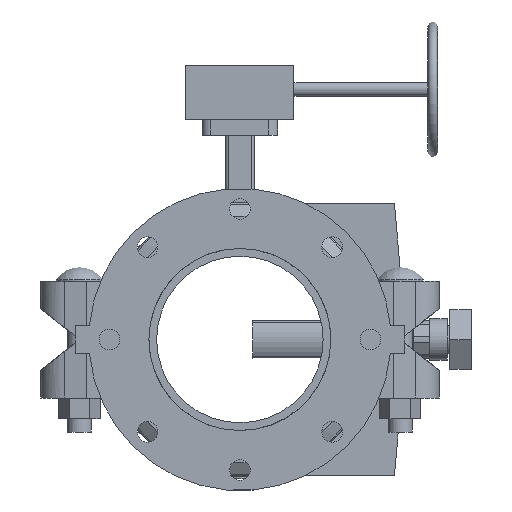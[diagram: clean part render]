
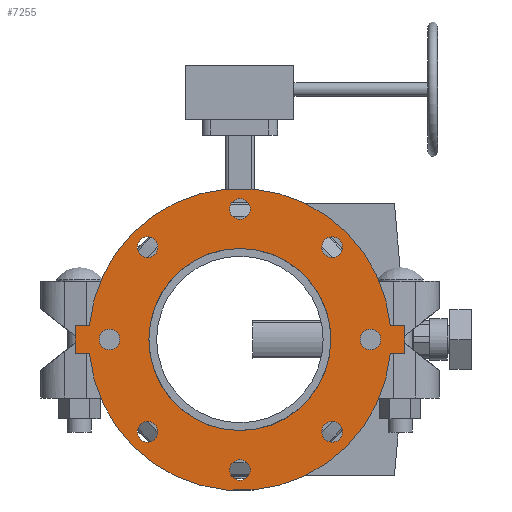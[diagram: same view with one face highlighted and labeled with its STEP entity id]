
A CAD part, front view. The second image highlights one B-rep face of the part: STEP entity #7255.
In plain terms, the highlighted planar face has unit normal (0, -1, 0) as drawn and (0, 0, -1) by its records, which use the part's own axes.
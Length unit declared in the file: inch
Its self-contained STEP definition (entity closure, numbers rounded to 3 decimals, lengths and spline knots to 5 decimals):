
#188=FACE_BOUND('',#922,.T.);
#189=FACE_BOUND('',#923,.T.);
#190=FACE_BOUND('',#924,.T.);
#191=FACE_BOUND('',#925,.T.);
#192=FACE_BOUND('',#926,.T.);
#193=FACE_BOUND('',#927,.T.);
#194=FACE_BOUND('',#928,.T.);
#195=FACE_BOUND('',#929,.T.);
#196=FACE_BOUND('',#930,.T.);
#278=PLANE('',#7868);
#524=FACE_OUTER_BOUND('',#921,.T.);
#921=EDGE_LOOP('',(#4666,#4667,#4668,#4669,#4670,#4671,#4672,#4673));
#922=EDGE_LOOP('',(#4674));
#923=EDGE_LOOP('',(#4675));
#924=EDGE_LOOP('',(#4676));
#925=EDGE_LOOP('',(#4677));
#926=EDGE_LOOP('',(#4678));
#927=EDGE_LOOP('',(#4679));
#928=EDGE_LOOP('',(#4680));
#929=EDGE_LOOP('',(#4681));
#930=EDGE_LOOP('',(#4682,#4683));
#1408=LINE('',#10997,#1949);
#1409=LINE('',#10999,#1950);
#1410=LINE('',#11001,#1951);
#1411=LINE('',#11005,#1952);
#1412=LINE('',#11007,#1953);
#1413=LINE('',#11008,#1954);
#1949=VECTOR('',#8759,0.3937);
#1950=VECTOR('',#8760,0.3937);
#1951=VECTOR('',#8761,0.3937);
#1952=VECTOR('',#8764,0.3937);
#1953=VECTOR('',#8765,0.3937);
#1954=VECTOR('',#8766,0.3937);
#2483=CIRCLE('',#7846,0.375);
#2485=CIRCLE('',#7849,0.375);
#2487=CIRCLE('',#7852,0.375);
#2489=CIRCLE('',#7855,0.375);
#2491=CIRCLE('',#7858,0.375);
#2493=CIRCLE('',#7861,0.375);
#2495=CIRCLE('',#7864,0.375);
#2497=CIRCLE('',#7867,0.375);
#2498=CIRCLE('',#7869,5.5);
#2499=CIRCLE('',#7870,5.5);
#2500=CIRCLE('',#7871,3.3125);
#2501=CIRCLE('',#7872,3.3125);
#2896=VERTEX_POINT('',#10947);
#2898=VERTEX_POINT('',#10953);
#2900=VERTEX_POINT('',#10959);
#2902=VERTEX_POINT('',#10965);
#2904=VERTEX_POINT('',#10971);
#2906=VERTEX_POINT('',#10977);
#2908=VERTEX_POINT('',#10983);
#2910=VERTEX_POINT('',#10989);
#2911=VERTEX_POINT('',#10993);
#2912=VERTEX_POINT('',#10994);
#2913=VERTEX_POINT('',#10996);
#2914=VERTEX_POINT('',#10998);
#2915=VERTEX_POINT('',#11000);
#2916=VERTEX_POINT('',#11002);
#2917=VERTEX_POINT('',#11004);
#2918=VERTEX_POINT('',#11006);
#2919=VERTEX_POINT('',#11009);
#2920=VERTEX_POINT('',#11010);
#3598=EDGE_CURVE('',#2896,#2896,#2483,.T.);
#3601=EDGE_CURVE('',#2898,#2898,#2485,.T.);
#3604=EDGE_CURVE('',#2900,#2900,#2487,.T.);
#3607=EDGE_CURVE('',#2902,#2902,#2489,.T.);
#3610=EDGE_CURVE('',#2904,#2904,#2491,.T.);
#3613=EDGE_CURVE('',#2906,#2906,#2493,.T.);
#3616=EDGE_CURVE('',#2908,#2908,#2495,.T.);
#3619=EDGE_CURVE('',#2910,#2910,#2497,.T.);
#3620=EDGE_CURVE('',#2911,#2912,#2498,.T.);
#3621=EDGE_CURVE('',#2912,#2913,#1408,.T.);
#3622=EDGE_CURVE('',#2913,#2914,#1409,.T.);
#3623=EDGE_CURVE('',#2914,#2915,#1410,.T.);
#3624=EDGE_CURVE('',#2915,#2916,#2499,.T.);
#3625=EDGE_CURVE('',#2916,#2917,#1411,.T.);
#3626=EDGE_CURVE('',#2917,#2918,#1412,.T.);
#3627=EDGE_CURVE('',#2918,#2911,#1413,.T.);
#3628=EDGE_CURVE('',#2919,#2920,#2500,.T.);
#3629=EDGE_CURVE('',#2920,#2919,#2501,.T.);
#4666=ORIENTED_EDGE('',*,*,#3620,.T.);
#4667=ORIENTED_EDGE('',*,*,#3621,.T.);
#4668=ORIENTED_EDGE('',*,*,#3622,.T.);
#4669=ORIENTED_EDGE('',*,*,#3623,.T.);
#4670=ORIENTED_EDGE('',*,*,#3624,.T.);
#4671=ORIENTED_EDGE('',*,*,#3625,.T.);
#4672=ORIENTED_EDGE('',*,*,#3626,.T.);
#4673=ORIENTED_EDGE('',*,*,#3627,.T.);
#4674=ORIENTED_EDGE('',*,*,#3598,.T.);
#4675=ORIENTED_EDGE('',*,*,#3601,.T.);
#4676=ORIENTED_EDGE('',*,*,#3604,.T.);
#4677=ORIENTED_EDGE('',*,*,#3607,.T.);
#4678=ORIENTED_EDGE('',*,*,#3610,.T.);
#4679=ORIENTED_EDGE('',*,*,#3613,.T.);
#4680=ORIENTED_EDGE('',*,*,#3616,.T.);
#4681=ORIENTED_EDGE('',*,*,#3619,.T.);
#4682=ORIENTED_EDGE('',*,*,#3628,.T.);
#4683=ORIENTED_EDGE('',*,*,#3629,.T.);
#7255=ADVANCED_FACE('',(#524,#188,#189,#190,#191,#192,#193,#194,#195,#196),
#278,.T.);
#7846=AXIS2_PLACEMENT_3D('',#10949,#8704,#8705);
#7849=AXIS2_PLACEMENT_3D('',#10955,#8711,#8712);
#7852=AXIS2_PLACEMENT_3D('',#10961,#8718,#8719);
#7855=AXIS2_PLACEMENT_3D('',#10967,#8725,#8726);
#7858=AXIS2_PLACEMENT_3D('',#10973,#8732,#8733);
#7861=AXIS2_PLACEMENT_3D('',#10979,#8739,#8740);
#7864=AXIS2_PLACEMENT_3D('',#10985,#8746,#8747);
#7867=AXIS2_PLACEMENT_3D('',#10991,#8753,#8754);
#7868=AXIS2_PLACEMENT_3D('',#10992,#8755,#8756);
#7869=AXIS2_PLACEMENT_3D('',#10995,#8757,#8758);
#7870=AXIS2_PLACEMENT_3D('',#11003,#8762,#8763);
#7871=AXIS2_PLACEMENT_3D('',#11011,#8767,#8768);
#7872=AXIS2_PLACEMENT_3D('',#11012,#8769,#8770);
#8704=DIRECTION('center_axis',(0.,0.,1.));
#8705=DIRECTION('ref_axis',(-0.707,0.707,0.));
#8711=DIRECTION('center_axis',(0.,0.,1.));
#8712=DIRECTION('ref_axis',(0.,1.,0.));
#8718=DIRECTION('center_axis',(0.,0.,1.));
#8719=DIRECTION('ref_axis',(0.707,0.707,0.));
#8725=DIRECTION('center_axis',(0.,0.,1.));
#8726=DIRECTION('ref_axis',(1.,0.,0.));
#8732=DIRECTION('center_axis',(0.,0.,1.));
#8733=DIRECTION('ref_axis',(0.707,-0.707,0.));
#8739=DIRECTION('center_axis',(0.,0.,1.));
#8740=DIRECTION('ref_axis',(0.,-1.,0.));
#8746=DIRECTION('center_axis',(0.,0.,1.));
#8747=DIRECTION('ref_axis',(-0.707,-0.707,0.));
#8753=DIRECTION('center_axis',(0.,0.,1.));
#8754=DIRECTION('ref_axis',(-1.,0.,0.));
#8755=DIRECTION('center_axis',(0.,0.,-1.));
#8756=DIRECTION('ref_axis',(-1.,0.,0.));
#8757=DIRECTION('center_axis',(0.,0.,-1.));
#8758=DIRECTION('ref_axis',(-1.,0.,0.));
#8759=DIRECTION('',(0.,1.,0.));
#8760=DIRECTION('',(1.,0.,0.));
#8761=DIRECTION('',(0.,-1.,0.));
#8762=DIRECTION('center_axis',(0.,0.,-1.));
#8763=DIRECTION('ref_axis',(-1.,0.,0.));
#8764=DIRECTION('',(0.,-1.,0.));
#8765=DIRECTION('',(-1.,0.,0.));
#8766=DIRECTION('',(0.,1.,0.));
#8767=DIRECTION('center_axis',(0.,0.,1.));
#8768=DIRECTION('ref_axis',(-1.,0.,0.));
#8769=DIRECTION('center_axis',(0.,0.,1.));
#8770=DIRECTION('ref_axis',(-1.,0.,0.));
#10947=CARTESIAN_POINT('',(-3.09359,3.09359,-0.5));
#10949=CARTESIAN_POINT('Origin',(-3.35876,3.35876,-0.5));
#10953=CARTESIAN_POINT('',(0.,4.375,-0.5));
#10955=CARTESIAN_POINT('Origin',(0.,4.75,-0.5));
#10959=CARTESIAN_POINT('',(3.09359,3.09359,-0.5));
#10961=CARTESIAN_POINT('Origin',(3.35876,3.35876,-0.5));
#10965=CARTESIAN_POINT('',(4.375,0.,-0.5));
#10967=CARTESIAN_POINT('Origin',(4.75,0.,-0.5));
#10971=CARTESIAN_POINT('',(3.09359,-3.09359,-0.5));
#10973=CARTESIAN_POINT('Origin',(3.35876,-3.35876,-0.5));
#10977=CARTESIAN_POINT('',(0.,-4.375,-0.5));
#10979=CARTESIAN_POINT('Origin',(0.,-4.75,-0.5));
#10983=CARTESIAN_POINT('',(-3.09359,-3.09359,-0.5));
#10985=CARTESIAN_POINT('Origin',(-3.35876,-3.35876,-0.5));
#10989=CARTESIAN_POINT('',(-4.375,0.,-0.5));
#10991=CARTESIAN_POINT('Origin',(-4.75,0.,-0.5));
#10992=CARTESIAN_POINT('Origin',(0.,0.,-0.5));
#10993=CARTESIAN_POINT('',(-0.5,-5.47723,-0.5));
#10994=CARTESIAN_POINT('',(-0.5,5.47723,-0.5));
#10995=CARTESIAN_POINT('Origin',(0.,0.,-0.5));
#10996=CARTESIAN_POINT('',(-0.5,6.,-0.5));
#10997=CARTESIAN_POINT('',(-0.5,-6.,-0.5));
#10998=CARTESIAN_POINT('',(0.5,6.,-0.5));
#10999=CARTESIAN_POINT('',(-0.5,6.,-0.5));
#11000=CARTESIAN_POINT('',(0.5,5.47723,-0.5));
#11001=CARTESIAN_POINT('',(0.5,6.,-0.5));
#11002=CARTESIAN_POINT('',(0.5,-5.47723,-0.5));
#11003=CARTESIAN_POINT('Origin',(0.,0.,-0.5));
#11004=CARTESIAN_POINT('',(0.5,-6.,-0.5));
#11005=CARTESIAN_POINT('',(0.5,6.,-0.5));
#11006=CARTESIAN_POINT('',(-0.5,-6.,-0.5));
#11007=CARTESIAN_POINT('',(0.5,-6.,-0.5));
#11008=CARTESIAN_POINT('',(-0.5,-6.,-0.5));
#11009=CARTESIAN_POINT('',(0.5,3.27455,-0.5));
#11010=CARTESIAN_POINT('',(3.3125,0.,-0.5));
#11011=CARTESIAN_POINT('Origin',(0.,0.,-0.5));
#11012=CARTESIAN_POINT('Origin',(0.,0.,-0.5));
